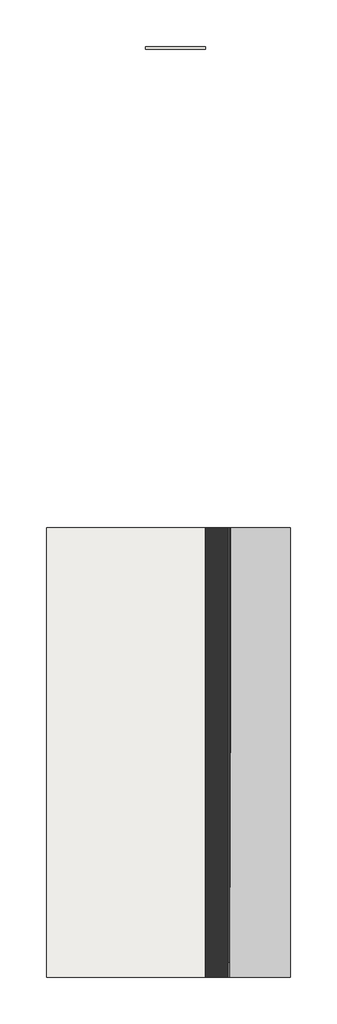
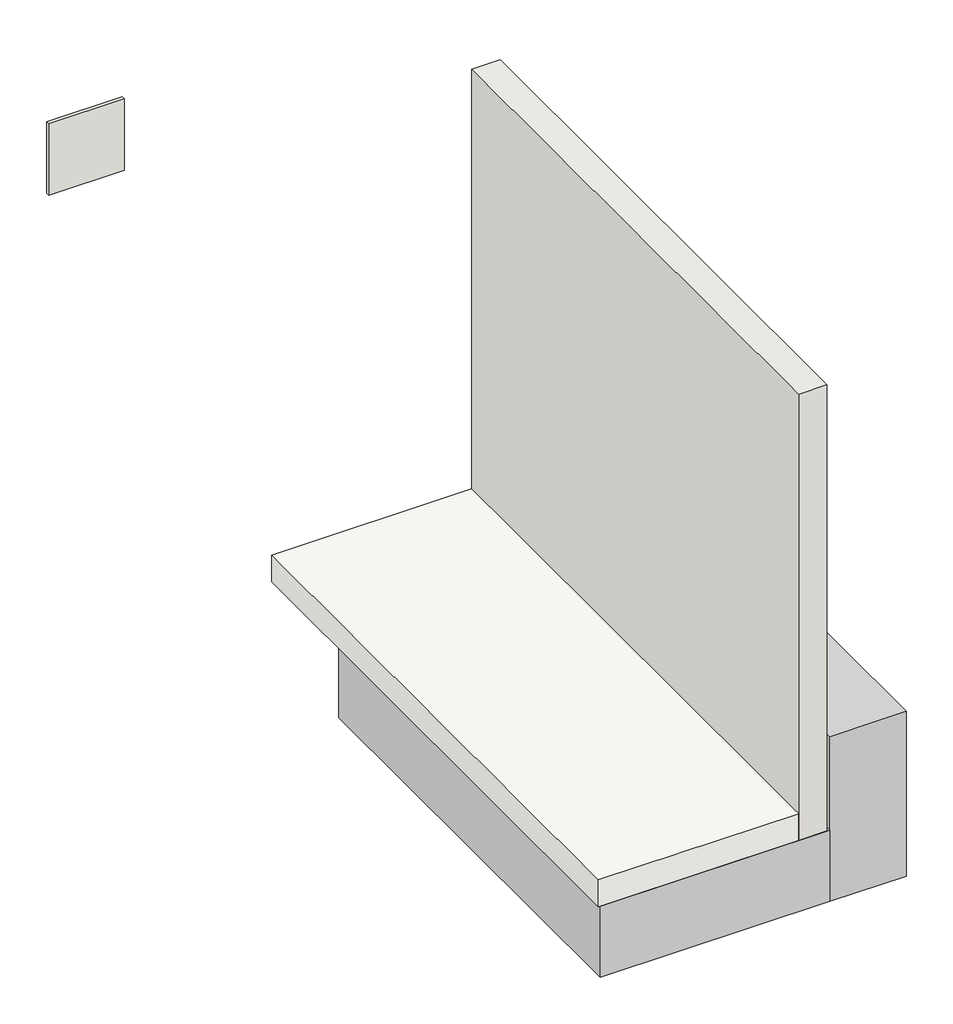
# One storey: 2 walls, 1 proxy, 1 slab.
"""IFC4 building model written with IfcOpenShell, lengths in millimetres."""

import ifcopenshell
import ifcopenshell.guid

model = None  # the IFC model being written
_history = None  # IfcOwnerHistory: only IFC2X3 demands one
_inside = {}  # id of a spatial element -> (the spatial element, [elements in it])
_under = {}  # id of a project, library or spatial element -> (it, [spatial elements below it])
_declared = {}  # id of a project -> (the project, [libraries it declares])
_typed = {}  # id of a type object -> (the type object, [elements of that type])
_made_of = {}  # id of a material, layer set ... -> (it, [elements and type objects made of it])


def new_model(schema):
    """Start an empty IFC model of exactly this schema.

    Asked for "IFC4X3", IfcOpenShell would pick the latest addendum, in which some entities
    have other attributes; the version numbers below select the first issue.
    IFC2X3 requires an IfcOwnerHistory on every rooted entity: one is made here for all.
    """
    global model, _history
    if schema == "IFC4X3":
        model = ifcopenshell.file(schema_version=(4, 3, 0, 0))
    else:
        model = ifcopenshell.file(schema=schema)
    _inside.clear()
    _under.clear()
    _declared.clear()
    _typed.clear()
    _made_of.clear()
    _history = None
    if model.schema == "IFC2X3":
        org = make("IfcOrganization", Name="unknown")
        user = make(
            "IfcPersonAndOrganization",
            ThePerson=make("IfcPerson", FamilyName="unknown"),
            TheOrganization=org,
        )
        app = make(
            "IfcApplication",
            ApplicationDeveloper=org,
            Version="unknown",
            ApplicationFullName="unknown",
            ApplicationIdentifier="unknown",
        )
        _history = make(
            "IfcOwnerHistory",
            OwningUser=user,
            OwningApplication=app,
            ChangeAction="ADDED",
            CreationDate=0,
        )
    return model


def make(cls, **values):
    """One entity of the class cls with the attributes given. An attribute that is None is left unset."""
    return model.create_entity(
        cls, **{name: value for name, value in values.items() if value is not None}
    )


def rooted(cls, **values):
    """An entity with a GlobalId (a new one), such as an element, a storey or a relation."""
    return make(cls, GlobalId=ifcopenshell.guid.new(), OwnerHistory=_history, **values)


def si_unit(unit_type, name, prefix=None):
    """IfcSIUnit, for example si_unit("LENGTHUNIT", "METRE", prefix="MILLI")."""
    return make("IfcSIUnit", UnitType=unit_type, Prefix=prefix, Name=name)


def assignment(units):
    """IfcUnitAssignment: the units of a project."""
    return None if units is None else make("IfcUnitAssignment", Units=units)


def point(xyz):
    """IfcCartesianPoint."""
    return None if xyz is None else make("IfcCartesianPoint", Coordinates=xyz)


def direction(xyz):
    """IfcDirection."""
    return None if xyz is None else make("IfcDirection", DirectionRatios=xyz)


def frame(location, z_axis=None, x_axis=None):
    """IfcAxis2Placement3D, a coordinate frame: its origin and axes. An axis left out is left unset."""
    return make(
        "IfcAxis2Placement3D",
        Location=point(location),
        Axis=direction(z_axis),
        RefDirection=direction(x_axis),
    )


def frame_2d(location, x_axis=None):
    """IfcAxis2Placement2D, a coordinate frame in the plane: its origin and x axis."""
    return make(
        "IfcAxis2Placement2D", Location=point(location), RefDirection=direction(x_axis)
    )


def origin():
    """The frame at (0, 0, 0) with its axes left unset."""
    return frame((0.0, 0.0, 0.0))


def place(relative_to, where):
    """IfcLocalPlacement: puts the frame where relative to a parent placement (None: the world)."""
    return make(
        "IfcLocalPlacement", PlacementRelTo=relative_to, RelativePlacement=where
    )


def context(
    kind, dimensions, precision=None, world=None, true_north=None, identifier=None
):
    """IfcGeometricRepresentationContext, for example the 3D "Model" context."""
    return make(
        "IfcGeometricRepresentationContext",
        ContextIdentifier=identifier,
        ContextType=kind,
        CoordinateSpaceDimension=dimensions,
        Precision=precision,
        WorldCoordinateSystem=world,
        TrueNorth=true_north,
    )


def project(units=None, contexts=None):
    """IfcProject with its units and contexts."""
    return rooted(
        "IfcProject",
        Name="project",
        RepresentationContexts=contexts,
        UnitsInContext=assignment(units),
    )


def spatial(cls, under=None, at=None, **own):
    """A site, building, storey or space (cls), placed at a placement, below another one or the project."""
    s = rooted(cls, ObjectPlacement=at, **own)
    if under is not None:
        _under.setdefault(under.id(), (under, []))[1].append(s)
    return s


def polyline(points):
    """IfcPolyline through the points."""
    return make("IfcPolyline", Points=[point(p) for p in points])


def circle_curve(where, radius):
    """IfcCircle in the frame where."""
    return make("IfcCircle", Position=where, Radius=radius)


def trimmed(basis, trim1, trim2, sense, master):
    """IfcTrimmedCurve: the piece of a basis curve between two trims."""
    return make(
        "IfcTrimmedCurve",
        BasisCurve=basis,
        Trim1=trim1,
        Trim2=trim2,
        SenseAgreement=sense,
        MasterRepresentation=master,
    )


def segment(curve, same_sense, transition):
    """IfcCompositeCurveSegment."""
    return make(
        "IfcCompositeCurveSegment",
        Transition=transition,
        SameSense=same_sense,
        ParentCurve=curve,
    )


def composite_curve(segments, self_intersect=None):
    """IfcCompositeCurve: segments joined end to end."""
    return make("IfcCompositeCurve", Segments=segments, SelfIntersect=self_intersect)


def outline(outer, holes=None, kind="AREA"):
    """IfcArbitraryClosedProfileDef: a profile drawn as a closed curve; with holes, ...WithVoids."""
    if holes is None:
        return make("IfcArbitraryClosedProfileDef", ProfileType=kind, OuterCurve=outer)
    return make(
        "IfcArbitraryProfileDefWithVoids",
        ProfileType=kind,
        OuterCurve=outer,
        InnerCurves=holes,
    )


def extrude(swept, where, along, depth):
    """IfcExtrudedAreaSolid: the profile swept, set in the frame where, extruded along a direction by depth."""
    return make(
        "IfcExtrudedAreaSolid",
        SweptArea=swept,
        Position=where,
        ExtrudedDirection=direction(along),
        Depth=depth,
    )


def shape(context_of_items, identifier, shape_type, items):
    """IfcShapeRepresentation: the items that make up one representation, for example the "Body"."""
    return make(
        "IfcShapeRepresentation",
        ContextOfItems=context_of_items,
        RepresentationIdentifier=identifier,
        RepresentationType=shape_type,
        Items=items,
    )


def source(mapping_origin, context_of_items, identifier, shape_type, items):
    """IfcRepresentationMap: a shape defined once, which mapped items show again and again."""
    return make(
        "IfcRepresentationMap",
        MappingOrigin=mapping_origin,
        MappedRepresentation=shape(context_of_items, identifier, shape_type, items),
    )


def transform(
    local_origin,
    x_axis=None,
    y_axis=None,
    z_axis=None,
    scale=None,
    scale2=None,
    scale3=None,
    uniform=True,
):
    """IfcCartesianTransformationOperator3D, or its non-uniform kind. x_axis, y_axis, z_axis: its Axis1, 2, 3."""
    if uniform:
        return make(
            "IfcCartesianTransformationOperator3D",
            Axis1=direction(x_axis),
            Axis2=direction(y_axis),
            LocalOrigin=point(local_origin),
            Scale=scale,
            Axis3=direction(z_axis),
        )
    return make(
        "IfcCartesianTransformationOperator3DnonUniform",
        Axis1=direction(x_axis),
        Axis2=direction(y_axis),
        LocalOrigin=point(local_origin),
        Scale=scale,
        Axis3=direction(z_axis),
        Scale2=scale2,
        Scale3=scale3,
    )


def mapped(mapping_source, mapping_target):
    """IfcMappedItem: shows the shape of a source again, moved by a transform."""
    return make(
        "IfcMappedItem", MappingSource=mapping_source, MappingTarget=mapping_target
    )


def made_of(thing, what):
    """Note that an element or type object is made of a material, layer set ...; save() writes the relation."""
    if what is not None:
        _made_of.setdefault(what.id(), (what, []))[1].append(thing)
    return thing


def element(
    cls,
    number,
    at=None,
    inside=None,
    cuts=None,
    type_object=None,
    material=None,
    context=None,
    identifier="Body",
    shape_type=None,
    held_by="IfcProductDefinitionShape",
    body=None,
    shapes=None,
    **own,
):
    """One element of the class cls, such as IfcWall. Its Tag is "e" and its number.

    at: its placement. inside: the storey or other place that contains it. cuts: it is an
    opening in that element (IfcRelVoidsElement). A single representation is given by context,
    identifier, shape_type and body (its items); several are given by shapes. held_by: the class
    of the entity that holds the representations. save() writes the other relations.
    """
    e = rooted(cls, Tag="e%d" % number, ObjectPlacement=at, **own)
    if body is not None:
        shapes = [shape(context, identifier, shape_type, body)]
    if shapes is not None:
        e.Representation = make(held_by, Representations=shapes)
    if inside is not None:
        _inside.setdefault(inside.id(), (inside, []))[1].append(e)
    if cuts is not None:
        rooted(
            "IfcRelVoidsElement", RelatingBuildingElement=cuts, RelatedOpeningElement=e
        )
    if type_object is not None:
        _typed.setdefault(type_object.id(), (type_object, []))[1].append(e)
    return made_of(e, material)


def aggregate(whole, parts):
    """IfcRelAggregates: a whole, such as a stair, and the parts it consists of."""
    return rooted("IfcRelAggregates", RelatingObject=whole, RelatedObjects=parts)


def save(model, path):
    """Write the relations noted so far, then the file.

    IfcRelAggregates (storeys below a building ...), IfcRelContainedInSpatialStructure (elements
    in a storey), IfcRelDefinesByType, IfcRelAssociatesMaterial and IfcRelDeclares: one each for
    every whole, place, type object, material and project.
    """
    for whole, parts in _under.values():
        aggregate(whole, parts)
    for where, things in _inside.values():
        rooted(
            "IfcRelContainedInSpatialStructure",
            RelatedElements=things,
            RelatingStructure=where,
        )
    for kind, things in _typed.values():
        rooted("IfcRelDefinesByType", RelatedObjects=things, RelatingType=kind)
    for what, things in _made_of.values():
        rooted("IfcRelAssociatesMaterial", RelatedObjects=things, RelatingMaterial=what)
    for by, libraries in _declared.values():
        rooted("IfcRelDeclares", RelatingContext=by, RelatedDefinitions=libraries)
    model.write(path)


def generic_models_bc2d820c(model_context):
    return source(origin(), model_context, "Body", "SweptSolid", [
        extrude(outline(polyline([(-351.9704105, 145.8700195), (-341.9704105, 145.8700195), (-341.9704105, -2753.5603664), (-351.9704105, -2753.5603664), (-351.9704105, 145.8700195)])), frame((0.0, 0.0, -2.523798), z_axis=(0.0, 0.0, 1.0), x_axis=(1.0, 0.0, 0.0)), (0.0, 0.0, 1.0), 2428.3179055),
        extrude(outline(polyline([(-336.9315394, -2854.1299805), (-1552.7804486, -2854.1299805), (-1552.7804486, -454.1299805), (-336.9315394, -454.1299805), (-336.9315394, -2854.1299805)])), frame((0.0, 0.0, -402.523798), z_axis=(0.0, 0.0, 1.0), x_axis=(1.0, 0.0, 0.0)), (0.0, 0.0, 1.0), 400.0),
        extrude(outline(polyline([(67.0408996, -2854.1299805), (-336.9315394, -2854.1299805), (-336.9315394, 145.8700195), (67.0408996, 145.8700195), (67.0408996, -2854.1299805)])), frame((0.0, 0.0, -402.523798), z_axis=(0.0, 0.0, 1.0), x_axis=(1.0, 0.0, 0.0)), (0.0, 0.0, 1.0), 923.3418813),
        extrude(outline(composite_curve([segment(polyline([(1063.6239853, -335.9591004), (-2.523798, -335.9591004)]), True, "CONTINUOUS"), segment(trimmed(circle_curve(frame_2d((-2.523798, -325.9591004)), 10.0), [point((-2.523798, -335.9591004))], [point((-2.523798, -315.9591004))], False, "CARTESIAN"), True, "CONTINUOUS"), segment(trimmed(circle_curve(frame_2d((-2.523798, -322.4800762)), 6.5209758), [point((-2.523798, -315.9591004))], [point((-2.523798, -329.001052))], False, "CARTESIAN"), True, "CONTINUOUS"), segment(trimmed(circle_curve(frame_2d((-2.523798, -325.7405641)), 3.2604879), [point((-2.523798, -329.001052))], [point((-2.523798, -322.4800762))], False, "CARTESIAN"), True, "CONTINUOUS"), segment(polyline([(-2.523798, -322.4800762), (-2.523798, -325.4800762)]), True, "CONTINUOUS"), segment(trimmed(circle_curve(frame_2d((-2.523798, -325.7405641)), 0.2604879), [point((-2.523798, -325.4800762))], [point((-2.523798, -326.001052))], True, "CARTESIAN"), True, "CONTINUOUS"), segment(trimmed(circle_curve(frame_2d((-2.523798, -322.4800762)), 3.5209758), [point((-2.523798, -326.001052))], [point((-2.523798, -318.9591004))], True, "CARTESIAN"), True, "CONTINUOUS"), segment(trimmed(circle_curve(frame_2d((-2.523798, -325.9591004)), 7.0), [point((-2.523798, -318.9591004))], [point((-2.523798, -332.9591004))], True, "CARTESIAN"), True, "CONTINUOUS"), segment(polyline([(-2.523798, -332.9591004), (1063.6239853, -332.9591004), (1063.6239853, -335.9591004)]), True, "CONTINUOUS")], self_intersect=False)), frame((0.0, -1354.1299805, 0.0), z_axis=(0.0, 1.0, 0.0), x_axis=(0.0, 0.0, 1.0)), (0.0, 0.0, 1.0), 1500.0),
        extrude(outline(polyline([(-340.9315394, 145.8700195), (-340.9315394, -2554.1299805), (-341.9704105, -2554.1299805), (-341.9704105, 145.8700195), (-340.9315394, 145.8700195)])), frame((0.0, 0.0, -2.523798), z_axis=(0.0, 0.0, 1.0), x_axis=(1.0, 0.0, 0.0)), (0.0, 0.0, 1.0), 2210.6503734),
        extrude(outline(polyline([(-336.9315394, 145.8700195), (-336.9315394, -2254.1299805), (-340.9315394, -2254.1299805), (-340.9315394, 145.8700195), (-336.9315394, 145.8700195)])), frame((0.0, 0.0, -2.523798), z_axis=(0.0, 0.0, 1.0), x_axis=(1.0, 0.0, 0.0)), (0.0, 0.0, 1.0), 1965.7083629),
        extrude(outline(polyline([(-335.9591004, 145.8700195), (-335.9591004, -1754.1299805), (-336.9315394, -1754.1299805), (-336.9315394, 145.8700195), (-335.9591004, 145.8700195)])), frame((0.0, 0.0, -2.523798), z_axis=(0.0, 0.0, 1.0), x_axis=(1.0, 0.0, 0.0)), (0.0, 0.0, 1.0), 1548.1528029),
    ])


model = new_model("IFC4")

# Units and contexts
model_context = context("Model", 3, world=origin())
ifc_project = project(units=[si_unit("LENGTHUNIT", "METRE", prefix="MILLI")], contexts=[model_context])

# Site, building, storey
site = spatial("IfcSite", under=ifc_project)
building = spatial("IfcBuilding", under=site)
storey = spatial("IfcBuildingStorey", under=building, Name="ARQ Térreo", Elevation=-2.523798)

# Proxy
placement = place(None, origin())
generic_models_shape = generic_models_bc2d820c(model_context)
element("IfcBuildingElementProxy", 1, Name="IMPER:IMPER:433934 : IMPER:IMPER:433934", ObjectType="IMPER:IMPER:433934 : IMPER:IMPER:433934", at=placement, inside=storey, context=model_context, shape_type="MappedRepresentation", body=[
    mapped(generic_models_shape, transform((0.0, 0.0, 0.0), x_axis=(1.0, 0.0, 0.0), y_axis=(0.0, 1.0, 0.0), z_axis=(0.0, 0.0, 1.0))),
])

# Slab
element("IfcSlab", 2, ObjectType="Genérico 150 mm", at=placement, inside=storey, context=model_context, shape_type="SweptSolid", body=[
    extrude(outline(polyline([(-1562.7804486, 145.8700195), (-501.9704105, 145.8700195), (-501.9704105, -2854.1299805), (-1562.7804486, -2854.1299805), (-1562.7804486, 145.8700195)])), frame((0.0, 0.0, -2.523798), z_axis=(0.0, 0.0, 1.0), x_axis=(1.0, 0.0, 0.0)), (0.0, 0.0, 1.0), 150.0),
])

# Walls
element("IfcWall", 3, ObjectType="Parede básica:Parede Concreto", at=placement, inside=storey, context=model_context, shape_type="SweptSolid", body=[
    extrude(outline(polyline([(-501.9704105, -2854.1299805), (-501.9704105, 145.8700195), (-351.9704105, 145.8700195), (-351.9704105, -2854.1299805), (-501.9704105, -2854.1299805)])), frame((0.0, 0.0, -2.523798), z_axis=(0.0, 0.0, 1.0), x_axis=(1.0, 0.0, 0.0)), (0.0, 0.0, 1.0), 2500.0),
])
element("IfcWall", 4, ObjectType="IMPV_PGEOTEXTIL", at=placement, inside=storey, context=model_context, shape_type="SweptSolid", body=[
    extrude(outline(polyline([(-901.9704105, 3355.3700195), (-501.9704105, 3355.3700195), (-501.9704105, 3336.3700195), (-901.9704105, 3336.3700195), (-901.9704105, 3355.3700195)])), frame((0.0, 0.0, -2.523798), z_axis=(0.0, 0.0, 1.0), x_axis=(1.0, 0.0, 0.0)), (0.0, 0.0, 1.0), 400.0),
])

save(model, "model.ifc")
